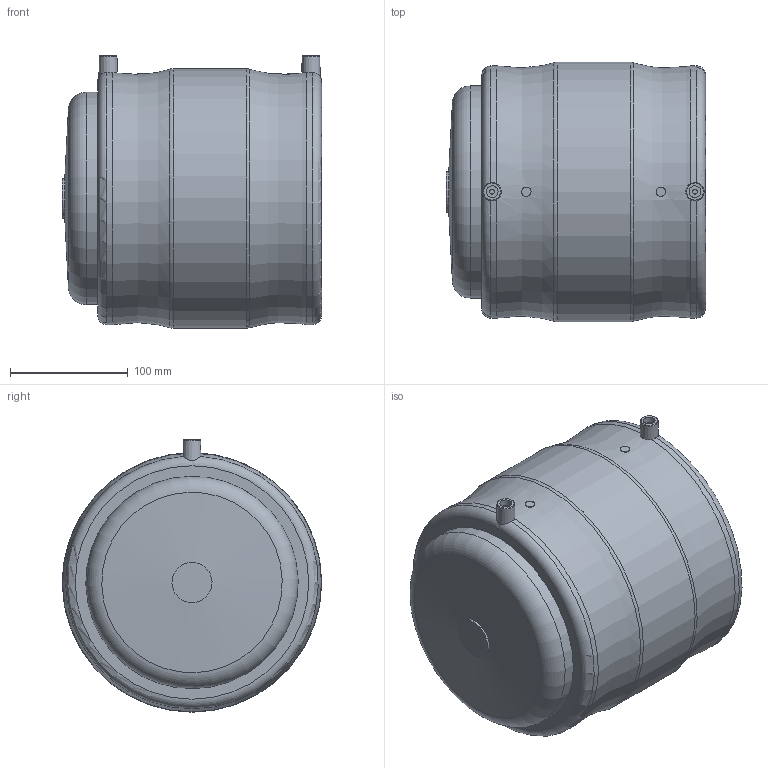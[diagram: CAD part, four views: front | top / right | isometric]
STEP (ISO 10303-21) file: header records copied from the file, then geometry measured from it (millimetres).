
FILE_DESCRIPTION(/* description */ ('Unknown'),/* implementation_level */ '2;1');
FILE_NAME(/* name */ 'CAEP180C',/* time_stamp */ '2021-02-11T10:24:37+01:00',/* author */ ('Unknown'),/* organization */ ('Unknown'),/* preprocessor_version */ 'ST-DEVELOPER v16.7',/* originating_system */ 'Solid Edge',/* authorisation */ 'Unknown');
FILE_SCHEMA (('AUTOMOTIVE_DESIGN {1 0 10303 214 3 1 1}'));
Length unit declared in the file: millimetre
Products named in the file (3): CAEP180C; MP180C; CAP180C
Assembly tree (2 placements, depth 2):
  CAEP180C
    MP180C
    CAP180C
Bounding box: 219.75 x 220 x 231 mm (x, y, z)
Volume: 3369941.3 mm3; surface area: 415673.4 mm2
Topology: 2 solids, 2 shells, 62 faces, 142 edges, 92 vertices
Faces by surface type: plane 28, cylinder 19, torus 12, cone 3
Full cylindrical faces by diameter (mm): 4 x2, 8 x2, 10 x2, 34 x1, 147.2 x1, 180 x2, 220 x1
Entity records: 1617 total; most frequent: CARTESIAN_POINT 311, DIRECTION 274, ORIENTED_EDGE 200, AXIS2_PLACEMENT_3D 119, EDGE_CURVE 100, EDGE_LOOP 100, FACE_BOUND 100, VERTEX_POINT 78
